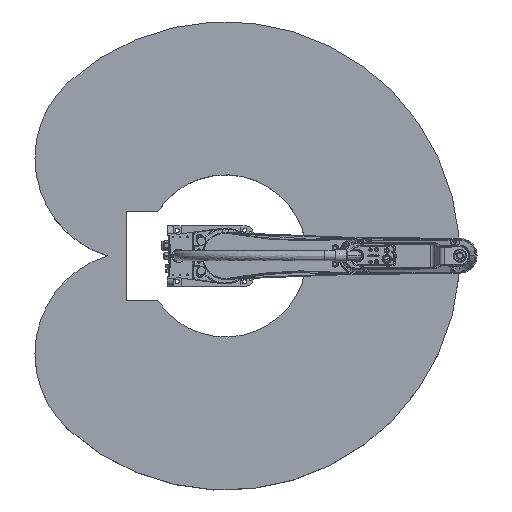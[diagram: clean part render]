
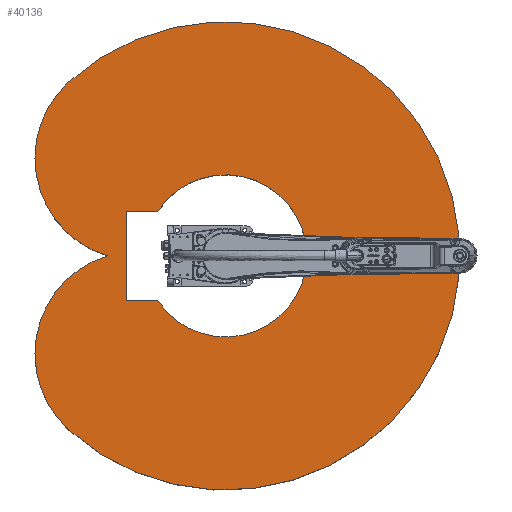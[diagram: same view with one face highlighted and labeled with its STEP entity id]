
A CAD part, top view. The second image highlights one B-rep face of the part: STEP entity #40136.
In plain terms, the highlighted planar face has unit normal (0, 0, 1) as drawn and (0, 1, 0) by its records, which use the part's own axes.
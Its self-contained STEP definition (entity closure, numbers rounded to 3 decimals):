
#151 = VERTEX_POINT ( 'NONE', #58672 ) ;
#2927 = AXIS2_PLACEMENT_3D ( 'NONE', #55720, #187597, #175140 ) ;
#3587 = DIRECTION ( 'NONE',  ( 1., 0., 0. ) ) ;
#6499 = DIRECTION ( 'NONE',  ( 0., 1., 0. ) ) ;
#6690 = CARTESIAN_POINT ( 'NONE',  ( -334.415, 188., 651.109 ) ) ;
#12272 = EDGE_LOOP ( 'NONE', ( #134131, #121473, #92087, #121733 ) ) ;
#15777 = ORIENTED_EDGE ( 'NONE', *, *, #30175, .T. ) ;
#17652 = CIRCLE ( 'NONE', #160335, 350. ) ;
#18224 = EDGE_CURVE ( 'NONE', #151, #98984, #25220, .T. ) ;
#19405 = AXIS2_PLACEMENT_3D ( 'NONE', #80863, #6499, #142156 ) ;
#25220 = CIRCLE ( 'NONE', #110625, 277.1 ) ;
#27276 = DIRECTION ( 'NONE',  ( 0., 1., 0. ) ) ;
#29087 = EDGE_LOOP ( 'NONE', ( #120061, #159969, #41725, #122435, #15777 ) ) ;
#30175 = EDGE_CURVE ( 'NONE', #141452, #188342, #17652, .T. ) ;
#33481 = CARTESIAN_POINT ( 'NONE',  ( -152.5, 188., 337.5 ) ) ;
#34493 = CARTESIAN_POINT ( 'NONE',  ( 334.415, 188., 651.109 ) ) ;
#40136 = ADVANCED_FACE ( 'NONE', ( #172585, #100095 ), #188559, .T. ) ;
#40382 = DIRECTION ( 'NONE',  ( 0., 0., 1. ) ) ;
#41725 = ORIENTED_EDGE ( 'NONE', *, *, #61018, .T. ) ;
#42252 = AXIS2_PLACEMENT_3D ( 'NONE', #160416, #98543, #143522 ) ;
#42592 = CARTESIAN_POINT ( 'NONE',  ( 0., 188., 404.387 ) ) ;
#44628 = CIRCLE ( 'NONE', #49864, 350. ) ;
#48330 = LINE ( 'NONE', #171620, #162738 ) ;
#49864 = AXIS2_PLACEMENT_3D ( 'NONE', #191065, #86669, #40382 ) ;
#54027 = DIRECTION ( 'NONE',  ( 0., 0., -1. ) ) ;
#55720 = CARTESIAN_POINT ( 'NONE',  ( 0., 188., 0. ) ) ;
#57904 = VERTEX_POINT ( 'NONE', #34493 ) ;
#58361 = CARTESIAN_POINT ( 'NONE',  ( -594.516, 188., 535.304 ) ) ;
#58672 = CARTESIAN_POINT ( 'NONE',  ( 152.5, 188., 231.362 ) ) ;
#61018 = EDGE_CURVE ( 'NONE', #132399, #88585, #111757, .T. ) ;
#73729 = AXIS2_PLACEMENT_3D ( 'NONE', #176052, #27276, #177335 ) ;
#76526 = VECTOR ( 'NONE', #3587, 1000. ) ;
#80274 = DIRECTION ( 'NONE',  ( 0., 0., -1. ) ) ;
#80863 = CARTESIAN_POINT ( 'NONE',  ( 334.415, 188., 301.109 ) ) ;
#81546 = EDGE_CURVE ( 'NONE', #116797, #132343, #160580, .T. ) ;
#86669 = DIRECTION ( 'NONE',  ( 0., 1., 0. ) ) ;
#88585 = VERTEX_POINT ( 'NONE', #58361 ) ;
#92087 = ORIENTED_EDGE ( 'NONE', *, *, #18224, .F. ) ;
#92724 = CARTESIAN_POINT ( 'NONE',  ( -152.5, 188., 337.5 ) ) ;
#98404 = CARTESIAN_POINT ( 'NONE',  ( -334.415, 188., 301.109 ) ) ;
#98543 = DIRECTION ( 'NONE',  ( 0., 1., 0. ) ) ;
#98749 = EDGE_CURVE ( 'NONE', #57904, #132399, #44628, .T. ) ;
#98984 = VERTEX_POINT ( 'NONE', #125679 ) ;
#100095 = FACE_OUTER_BOUND ( 'NONE', #29087, .T. ) ;
#105322 = CIRCLE ( 'NONE', #73729, 350. ) ;
#109712 = EDGE_CURVE ( 'NONE', #188342, #57904, #147484, .T. ) ;
#110625 = AXIS2_PLACEMENT_3D ( 'NONE', #130247, #144022, #54027 ) ;
#111757 = CIRCLE ( 'NONE', #2927, 800. ) ;
#115894 = DIRECTION ( 'NONE',  ( 0., 1., 0. ) ) ;
#116551 = CARTESIAN_POINT ( 'NONE',  ( 152.5, 188., 337.5 ) ) ;
#116797 = VERTEX_POINT ( 'NONE', #92724 ) ;
#118496 = EDGE_CURVE ( 'NONE', #132343, #151, #48330, .T. ) ;
#120061 = ORIENTED_EDGE ( 'NONE', *, *, #109712, .T. ) ;
#121473 = ORIENTED_EDGE ( 'NONE', *, *, #186358, .F. ) ;
#121733 = ORIENTED_EDGE ( 'NONE', *, *, #118496, .F. ) ;
#122435 = ORIENTED_EDGE ( 'NONE', *, *, #158505, .T. ) ;
#125679 = CARTESIAN_POINT ( 'NONE',  ( -152.5, 188., 231.362 ) ) ;
#130247 = CARTESIAN_POINT ( 'NONE',  ( 0., 188., 0. ) ) ;
#132343 = VERTEX_POINT ( 'NONE', #116551 ) ;
#132399 = VERTEX_POINT ( 'NONE', #146586 ) ;
#134131 = ORIENTED_EDGE ( 'NONE', *, *, #81546, .F. ) ;
#141452 = VERTEX_POINT ( 'NONE', #6690 ) ;
#142156 = DIRECTION ( 'NONE',  ( 0., 0., 1. ) ) ;
#143522 = DIRECTION ( 'NONE',  ( 0., 0., 1. ) ) ;
#144022 = DIRECTION ( 'NONE',  ( 0., 1., 0. ) ) ;
#146586 = CARTESIAN_POINT ( 'NONE',  ( 594.516, 188., 535.304 ) ) ;
#147484 = CIRCLE ( 'NONE', #19405, 350. ) ;
#155630 = LINE ( 'NONE', #33481, #181210 ) ;
#158505 = EDGE_CURVE ( 'NONE', #88585, #141452, #105322, .T. ) ;
#159969 = ORIENTED_EDGE ( 'NONE', *, *, #98749, .T. ) ;
#160280 = DIRECTION ( 'NONE',  ( 0., 0., 1. ) ) ;
#160335 = AXIS2_PLACEMENT_3D ( 'NONE', #98404, #115894, #160280 ) ;
#160416 = CARTESIAN_POINT ( 'NONE',  ( 167.208, 188., 150.554 ) ) ;
#160580 = LINE ( 'NONE', #177860, #76526 ) ;
#162738 = VECTOR ( 'NONE', #80274, 1000. ) ;
#171620 = CARTESIAN_POINT ( 'NONE',  ( 152.5, 188., 231.362 ) ) ;
#172585 = FACE_BOUND ( 'NONE', #12272, .T. ) ;
#175140 = DIRECTION ( 'NONE',  ( 0., 0., 1. ) ) ;
#176052 = CARTESIAN_POINT ( 'NONE',  ( -334.415, 188., 301.109 ) ) ;
#177335 = DIRECTION ( 'NONE',  ( 0., 0., 1. ) ) ;
#177860 = CARTESIAN_POINT ( 'NONE',  ( 152.5, 188., 337.5 ) ) ;
#181210 = VECTOR ( 'NONE', #184839, 1000. ) ;
#184839 = DIRECTION ( 'NONE',  ( 0., 0., 1. ) ) ;
#186358 = EDGE_CURVE ( 'NONE', #98984, #116797, #155630, .T. ) ;
#187597 = DIRECTION ( 'NONE',  ( 0., 1., 0. ) ) ;
#188342 = VERTEX_POINT ( 'NONE', #42592 ) ;
#188559 = PLANE ( 'NONE',  #42252 ) ;
#191065 = CARTESIAN_POINT ( 'NONE',  ( 334.415, 188., 301.109 ) ) ;
